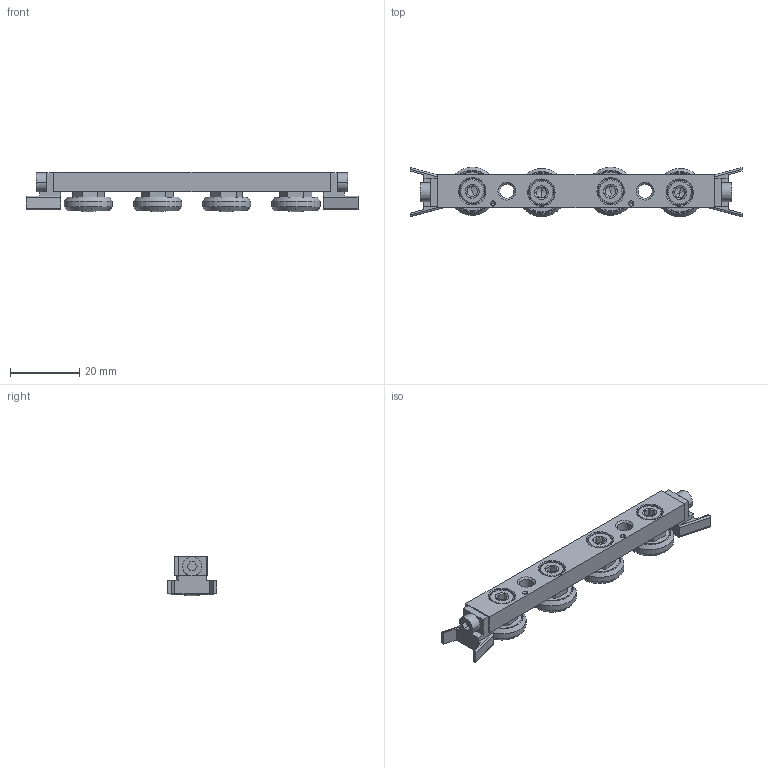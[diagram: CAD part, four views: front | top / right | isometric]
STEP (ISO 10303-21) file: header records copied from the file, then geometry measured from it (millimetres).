
FILE_DESCRIPTION (( 'STEP AP203' ), '1' );
FILE_NAME ('L1918.CSW18-80-2RSUB.step', '2019-06-29T22:04:42', ( '' ), ( '' ), 'SwSTEP 2.0', 'SolidWorks 2017', '' );
FILE_SCHEMA (( 'CONFIG_CONTROL_DESIGN' ));
Length unit declared in the file: millimetre
Products named in the file (6): Part1_L1918.CSW18-80-2RSUB; L1918.CSW18-80-2RSUB; Part4; Part5; Part7; Part8
Assembly tree (13 placements, depth 2):
  L1918.CSW18-80-2RSUB
    Part1_L1918.CSW18-80-2RSUB
    Part8  x6
    Part4  x2
    Part5  x2
    Part7  x2
Bounding box: 96 x 14.32 x 11.54 mm (x, y, z)
Volume: 7372.9 mm3; surface area: 7301.5 mm2
Topology: 13 solids, 13 shells, 412 faces, 960 edges, 592 vertices
Faces by surface type: plane 208, cone 108, cylinder 76, torus 20
Entity records: 6373 total; most frequent: CARTESIAN_POINT 1043, DIRECTION 1004, ORIENTED_EDGE 872, EDGE_CURVE 436, AXIS2_PLACEMENT_3D 381, VERTEX_POINT 279, VECTOR 242, LINE 242
